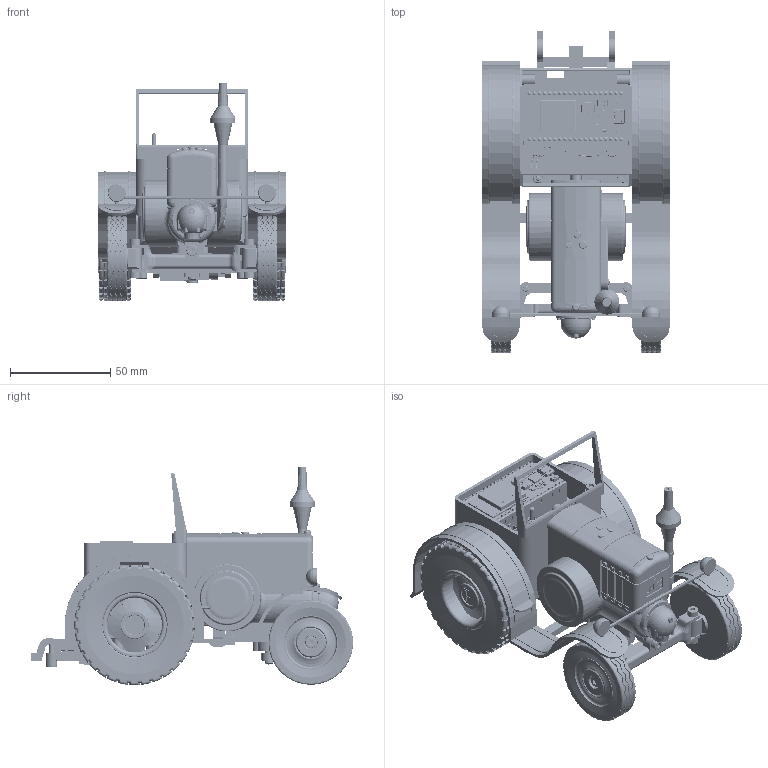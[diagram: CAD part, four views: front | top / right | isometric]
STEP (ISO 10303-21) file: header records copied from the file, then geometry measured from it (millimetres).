
FILE_DESCRIPTION(/* description */ (''),/* implementation_level */ '2;1');
FILE_NAME(/* name */ 'Lanz Bulldog Assembly.step',/* time_stamp */ '2025-11-09T10:18:45+01:00',/* author */ (''),/* organization */ (''),/* preprocessor_version */ 'ST-DEVELOPER v20.1',/* originating_system */ 'Autodesk Translation Framework v14.21.0.0',/* authorisation */ '');
FILE_SCHEMA (('AUTOMOTIVE_DESIGN { 1 0 10303 214 3 1 1 }'));
Length unit declared in the file: millimetre
Products named in the file (96): Lanz Bulldog Assembly; Front Chassis; Engine Block; Exhaust; Lights; Lights Lense; Fenderbar; Rear Chassis; Motorcover (Left); Motorcover (Right); Windscreen; N20 - 6V 500rpm; N20 500rpm; Small Universal Board MkII - Assembly Context LanzBulldog; Modulo DRV8833 ; placa; TSSOP-PW-16PIN; TSSOP_cuerpo_1.2h; TSSOP_pin_6.6; T494A; LED0805; housing; cover; base_2; base; marking; PIN_macho_1x6; C0805_060; R0805; EasyEDA PCB Model~bGd6; Board~bGd6; TopSilkscreen~bGd6; BottomSilkscreen~bGd6; Ser1~HDR-TH_3P-P2.54-V-M-1~HDR-M-2.54_1x3~bGd6; HDR-TH_3P-P2.54-V-M-1~HDR-M-2.54_1x3~bGd6; C1~CAP-TH_BD5.0-P2.00-D0.8-FD~CAP-TH_D5.0; CAP-TH_BD5.0-P2.00-D0.8-FD~CAP-TH_D5.0; H2~HDR-TH_4P-P2.54-V-M-1~HDR-TH_4P-P2.54-V-M-1~bGd6; HDR-TH_4P-P2.54-V-M-1~HDR-TH_4P-P2.54-V-M-1~bGd6; 19 Pin Header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
Assembly tree (139 placements, depth 9):
  Lanz Bulldog Assembly
    Front Chassis
      Engine Block
      Exhaust
      Lights
      Lights Lense  x2
      Fenderbar
    Rear Chassis
      Motorcover (Left)
      Motorcover (Right)
      Windscreen
    N20 - 6V 500rpm  x2
      N20 500rpm
    Small Universal Board MkII - Assembly Context LanzBulldog
      Modulo DRV8833 
        placa
        TSSOP-PW-16PIN
          TSSOP_cuerpo_1.2h
          TSSOP_pin_6.6  x2
        PIN_macho_1x6  x2
        T494A
        C0805_060  x2
        R0805  x2
        LED0805
          housing
          marking  x2
          cover
          base_2
          base
      19 Pin Header  x2
      6 Pin Header  x2
      EasyEDA PCB Model~bGd6
        Board~bGd6
        TopSilkscreen~bGd6
        BottomSilkscreen~bGd6
        Ser1~HDR-TH_3P-P2.54-V-M-1~HDR-M-2.54_1x3~bGd6  x2
          HDR-TH_3P-P2.54-V-M-1~HDR-M-2.54_1x3~bGd6
        C1~CAP-TH_BD5.0-P2.00-D0.8-FD~CAP-TH_D5.0  x2
          CAP-TH_BD5.0-P2.00-D0.8-FD~CAP-TH_D5.0
        H2~HDR-TH_4P-P2.54-V-M-1~HDR-TH_4P-P2.54-V-M-1~bGd6  x2
          HDR-TH_4P-P2.54-V-M-1~HDR-TH_4P-P2.54-V-M-1~bGd6
      ESP32Wroom
      jst2bacak
        Bileşen1
        Bileşen2
        Bileşen3
      DCDC Converter 4 Pin
      4 Pin Header
    DIN 912 - M3 x 0.5 x 10 Stahl 4.6 Einfach  x11
    DIN 912 - M3 x 0.5 x 6 Stahl 4.6 Einfach  x13
    M90S_ali
      axe
      base001
      Tube
        Cylindre
          Tube001
            Tube002
              Cylindre001
                Cylindre002
    Rear Tire  x2
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Bounding box: 93.2 x 160.34 x 108.75 mm (x, y, z)
Volume: 284631.3 mm3; surface area: 182231.2 mm2
Topology: 484 solids, 812 shells, 21128 faces, 61023 edges, 42483 vertices
Faces by surface type: plane 14915, bspline 2942, cylinder 2287, torus 666, cone 236, sphere 82
Full cylindrical faces by diameter (mm): 0.185 x1, 0.215 x1, 0.341 x1, 0.4 x12, 0.441 x1, 0.469 x1, 0.5 x4, 0.6 x9, 0.7 x1, 0.8 x114, 0.914 x24, 1 x26, 1.04 x38, 1.1 x12, 1.2 x17, 1.4 x8, 1.5 x2, 1.6 x5, 1.85 x5, 2 x52, 2.07 x24, 2.17 x3, 2.2 x1, 2.4 x1, 2.6 x24, 2.927 x24, 3 x3, 3.2 x15, 3.4 x2, 3.9 x1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
Entity records: 685305 total; most frequent: CARTESIAN_POINT 236055, ORIENTED_EDGE 91554, DIRECTION 81324, EDGE_CURVE 49328, VERTEX_POINT 34909, LINE 34516, VECTOR 34516, AXIS2_PLACEMENT_3D 23404
